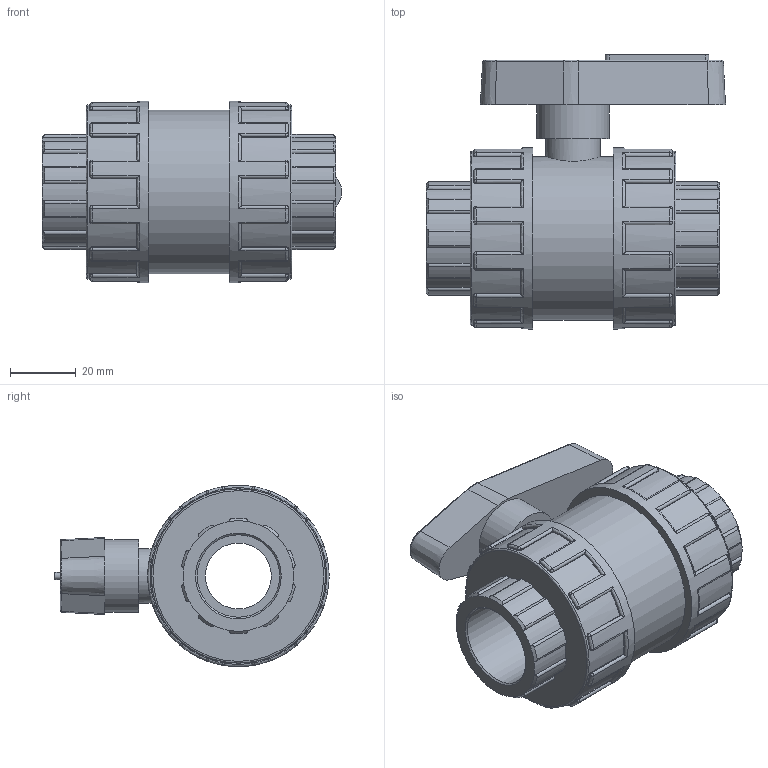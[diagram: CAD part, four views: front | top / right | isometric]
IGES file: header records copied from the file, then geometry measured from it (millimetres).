
Global section: file name: 11150025.ipt; native system: Autodesk Inventor 2015; preprocessor: unknown; author: KIM; date: 20171207.170212; units: millimetre
Bounding box: 90.79 x 83.12 x 55 mm (x, y, z)
Volume: 144658.1 mm3; surface area: 30055.6 mm2
Topology: 1 solids, 1 shells, 434 faces, 1085 edges, 662 vertices
Faces by surface type: cylinder 189, plane 114, revolution 59, sphere 48, cone 24
Full cylindrical faces by diameter (mm): 16.5 x1, 22 x1, 49.5 x1, 52.8 x2, 55 x2
